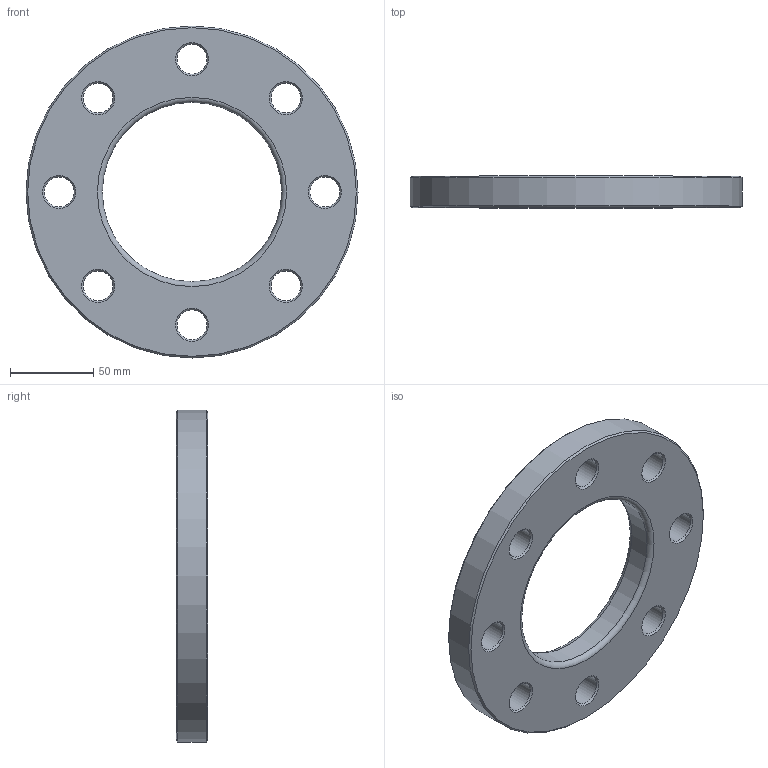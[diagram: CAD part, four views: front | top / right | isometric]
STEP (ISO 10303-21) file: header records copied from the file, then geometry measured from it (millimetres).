
FILE_DESCRIPTION(/* description */ ('Unknown'),/* implementation_level */ '2;1');
FILE_NAME(/* name */ 'FZ090L',/* time_stamp */ '2021-03-15T15:21:19+01:00',/* author */ ('Unknown'),/* organization */ ('Unknown'),/* preprocessor_version */ 'ST-DEVELOPER v16.7',/* originating_system */ 'Solid Edge',/* authorisation */ 'Unknown');
FILE_SCHEMA (('AUTOMOTIVE_DESIGN {1 0 10303 214 3 1 1}'));
Length unit declared in the file: millimetre
Products named in the file (1): FZ090L
Bounding box: 200 x 19 x 200 mm (x, y, z)
Volume: 381744.3 mm3; surface area: 65304.9 mm2
Topology: 1 solids, 1 shells, 32 faces, 94 edges, 64 vertices
Faces by surface type: cone 18, cylinder 10, plane 2, torus 2
Full cylindrical faces by diameter (mm): 18 x8, 108 x1, 200 x1
Entity records: 790 total; most frequent: DIRECTION 146, CARTESIAN_POINT 113, ORIENTED_EDGE 80, EDGE_LOOP 80, FACE_BOUND 80, AXIS2_PLACEMENT_3D 73, EDGE_CURVE 40, VERTEX_POINT 40
